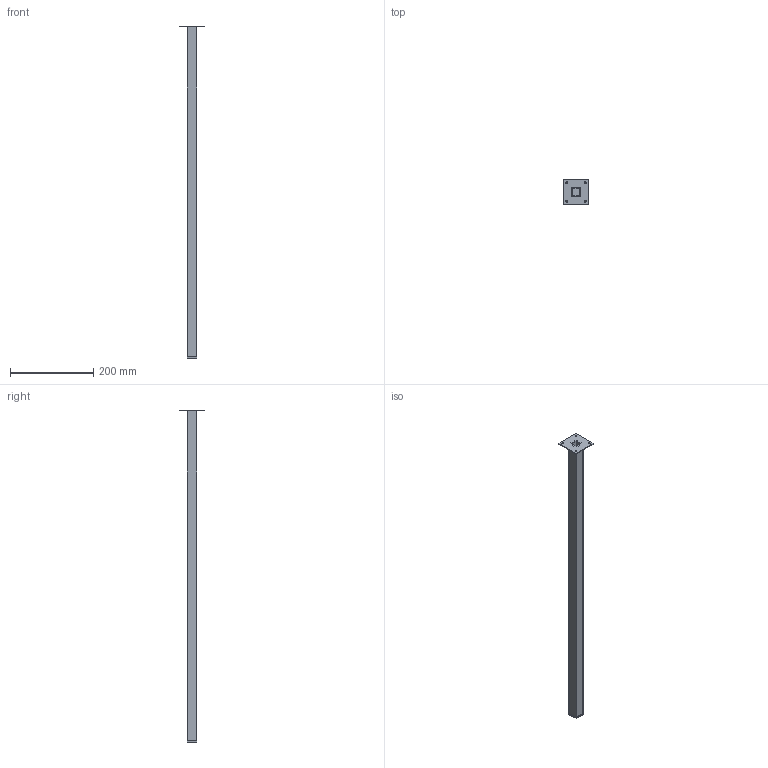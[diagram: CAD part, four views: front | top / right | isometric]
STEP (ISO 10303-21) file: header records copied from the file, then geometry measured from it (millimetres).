
FILE_DESCRIPTION( ( '' ), '1' );
FILE_NAME( 'D:/temp/hettich_stp/hettich/6.5_furniture_legs/table_legs/1383.stp', '2013-02-26T12:27:18', ( '' ), ( '' ), ' ', ' ', ' ' );
FILE_SCHEMA( ( 'automotive_design' ) );
Length unit declared in the file: millimetre
Products named in the file (1): 1
Bounding box: 60 x 60 x 800 mm (x, y, z)
Volume: 81430.4 mm3; surface area: 154998.9 mm2
Topology: 1 solids, 1 shells, 43 faces, 108 edges, 72 vertices
Faces by surface type: plane 31, cylinder 12
Entity records: 2570 total; most frequent: STYLED_ITEM 224, PRESENTATION_STYLE_ASSIGNMENT 224, CARTESIAN_POINT 224, COLOUR_RGB 224, DIRECTION 220, ORIENTED_EDGE 216, EDGE_CURVE 108, CURVE_STYLE 108
